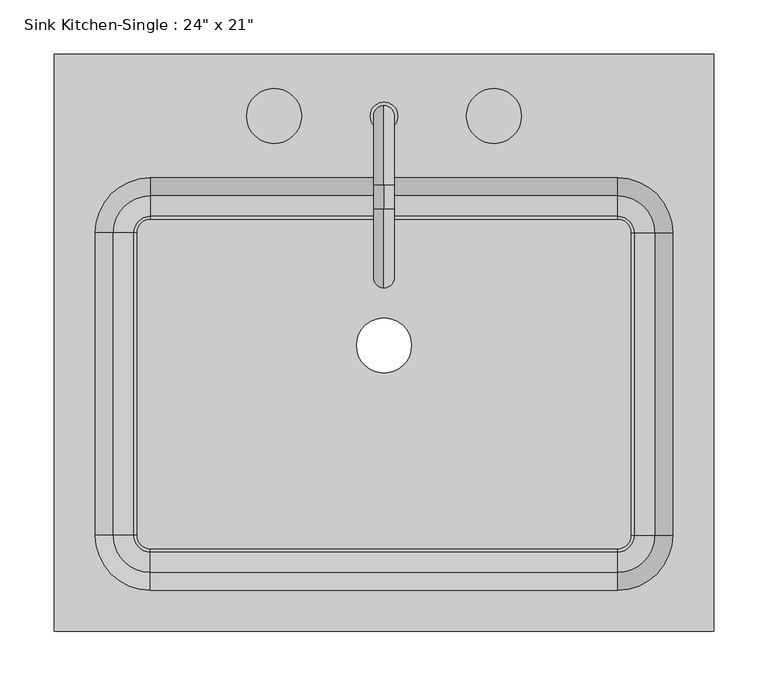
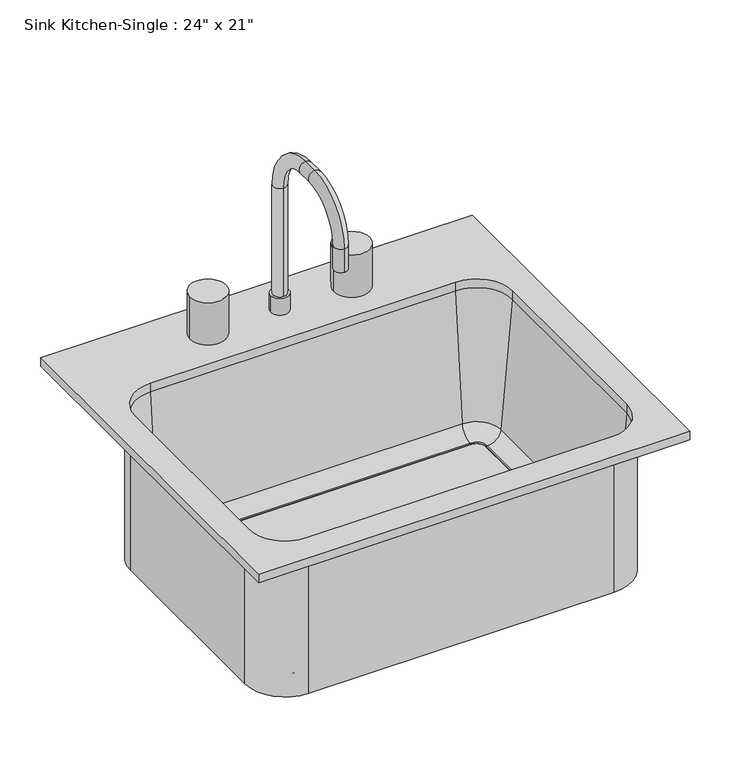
"""IFC4 building model written with IfcOpenShell, lengths in millimetres: flow terminal geometry."""

import ifcopenshell
import ifcopenshell.guid

model = None  # the IFC model being written
_history = None  # IfcOwnerHistory: only IFC2X3 demands one
_inside = {}  # id of a spatial element -> (the spatial element, [elements in it])
_under = {}  # id of a project, library or spatial element -> (it, [spatial elements below it])
_declared = {}  # id of a project -> (the project, [libraries it declares])
_typed = {}  # id of a type object -> (the type object, [elements of that type])
_made_of = {}  # id of a material, layer set ... -> (it, [elements and type objects made of it])


def new_model(schema):
    """Start an empty IFC model of exactly this schema.

    Asked for "IFC4X3", IfcOpenShell would pick the latest addendum, in which some entities
    have other attributes; the version numbers below select the first issue.
    IFC2X3 requires an IfcOwnerHistory on every rooted entity: one is made here for all.
    """
    global model, _history
    if schema == "IFC4X3":
        model = ifcopenshell.file(schema_version=(4, 3, 0, 0))
    else:
        model = ifcopenshell.file(schema=schema)
    _inside.clear()
    _under.clear()
    _declared.clear()
    _typed.clear()
    _made_of.clear()
    _history = None
    if model.schema == "IFC2X3":
        org = make("IfcOrganization", Name="unknown")
        user = make(
            "IfcPersonAndOrganization",
            ThePerson=make("IfcPerson", FamilyName="unknown"),
            TheOrganization=org,
        )
        app = make(
            "IfcApplication",
            ApplicationDeveloper=org,
            Version="unknown",
            ApplicationFullName="unknown",
            ApplicationIdentifier="unknown",
        )
        _history = make(
            "IfcOwnerHistory",
            OwningUser=user,
            OwningApplication=app,
            ChangeAction="ADDED",
            CreationDate=0,
        )
    return model


def make(cls, **values):
    """One entity of the class cls with the attributes given. An attribute that is None is left unset."""
    return model.create_entity(
        cls, **{name: value for name, value in values.items() if value is not None}
    )


def rooted(cls, **values):
    """An entity with a GlobalId (a new one), such as an element, a storey or a relation."""
    return make(cls, GlobalId=ifcopenshell.guid.new(), OwnerHistory=_history, **values)


def si_unit(unit_type, name, prefix=None):
    """IfcSIUnit, for example si_unit("LENGTHUNIT", "METRE", prefix="MILLI")."""
    return make("IfcSIUnit", UnitType=unit_type, Prefix=prefix, Name=name)


def assignment(units):
    """IfcUnitAssignment: the units of a project."""
    return None if units is None else make("IfcUnitAssignment", Units=units)


def point(xyz):
    """IfcCartesianPoint."""
    return None if xyz is None else make("IfcCartesianPoint", Coordinates=xyz)


def direction(xyz):
    """IfcDirection."""
    return None if xyz is None else make("IfcDirection", DirectionRatios=xyz)


def frame(location, z_axis=None, x_axis=None):
    """IfcAxis2Placement3D, a coordinate frame: its origin and axes. An axis left out is left unset."""
    return make(
        "IfcAxis2Placement3D",
        Location=point(location),
        Axis=direction(z_axis),
        RefDirection=direction(x_axis),
    )


def frame_2d(location, x_axis=None):
    """IfcAxis2Placement2D, a coordinate frame in the plane: its origin and x axis."""
    return make(
        "IfcAxis2Placement2D", Location=point(location), RefDirection=direction(x_axis)
    )


def origin():
    """The frame at (0, 0, 0) with its axes left unset."""
    return frame((0.0, 0.0, 0.0))


def place(relative_to, where):
    """IfcLocalPlacement: puts the frame where relative to a parent placement (None: the world)."""
    return make(
        "IfcLocalPlacement", PlacementRelTo=relative_to, RelativePlacement=where
    )


def context(
    kind, dimensions, precision=None, world=None, true_north=None, identifier=None
):
    """IfcGeometricRepresentationContext, for example the 3D "Model" context."""
    return make(
        "IfcGeometricRepresentationContext",
        ContextIdentifier=identifier,
        ContextType=kind,
        CoordinateSpaceDimension=dimensions,
        Precision=precision,
        WorldCoordinateSystem=world,
        TrueNorth=true_north,
    )


def project(units=None, contexts=None):
    """IfcProject with its units and contexts."""
    return rooted(
        "IfcProject",
        Name="project",
        RepresentationContexts=contexts,
        UnitsInContext=assignment(units),
    )


def spatial(cls, under=None, at=None, **own):
    """A site, building, storey or space (cls), placed at a placement, below another one or the project."""
    s = rooted(cls, ObjectPlacement=at, **own)
    if under is not None:
        _under.setdefault(under.id(), (under, []))[1].append(s)
    return s


def polyline(points):
    """IfcPolyline through the points."""
    return make("IfcPolyline", Points=[point(p) for p in points])


def circle_curve(where, radius):
    """IfcCircle in the frame where."""
    return make("IfcCircle", Position=where, Radius=radius)


def ellipse_curve(where, semi_axis1, semi_axis2):
    """IfcEllipse in the frame where."""
    return make(
        "IfcEllipse", Position=where, SemiAxis1=semi_axis1, SemiAxis2=semi_axis2
    )


def trimmed(basis, trim1, trim2, sense, master):
    """IfcTrimmedCurve: the piece of a basis curve between two trims."""
    return make(
        "IfcTrimmedCurve",
        BasisCurve=basis,
        Trim1=trim1,
        Trim2=trim2,
        SenseAgreement=sense,
        MasterRepresentation=master,
    )


def segment(curve, same_sense, transition):
    """IfcCompositeCurveSegment."""
    return make(
        "IfcCompositeCurveSegment",
        Transition=transition,
        SameSense=same_sense,
        ParentCurve=curve,
    )


def composite_curve(segments, self_intersect=None):
    """IfcCompositeCurve: segments joined end to end."""
    return make("IfcCompositeCurve", Segments=segments, SelfIntersect=self_intersect)


def outline(outer, holes=None, kind="AREA"):
    """IfcArbitraryClosedProfileDef: a profile drawn as a closed curve; with holes, ...WithVoids."""
    if holes is None:
        return make("IfcArbitraryClosedProfileDef", ProfileType=kind, OuterCurve=outer)
    return make(
        "IfcArbitraryProfileDefWithVoids",
        ProfileType=kind,
        OuterCurve=outer,
        InnerCurves=holes,
    )


def extrude(swept, where, along, depth):
    """IfcExtrudedAreaSolid: the profile swept, set in the frame where, extruded along a direction by depth."""
    return make(
        "IfcExtrudedAreaSolid",
        SweptArea=swept,
        Position=where,
        ExtrudedDirection=direction(along),
        Depth=depth,
    )


def shape(context_of_items, identifier, shape_type, items):
    """IfcShapeRepresentation: the items that make up one representation, for example the "Body"."""
    return make(
        "IfcShapeRepresentation",
        ContextOfItems=context_of_items,
        RepresentationIdentifier=identifier,
        RepresentationType=shape_type,
        Items=items,
    )


def source(mapping_origin, context_of_items, identifier, shape_type, items):
    """IfcRepresentationMap: a shape defined once, which mapped items show again and again."""
    return make(
        "IfcRepresentationMap",
        MappingOrigin=mapping_origin,
        MappedRepresentation=shape(context_of_items, identifier, shape_type, items),
    )


def transform(
    local_origin,
    x_axis=None,
    y_axis=None,
    z_axis=None,
    scale=None,
    scale2=None,
    scale3=None,
    uniform=True,
):
    """IfcCartesianTransformationOperator3D, or its non-uniform kind. x_axis, y_axis, z_axis: its Axis1, 2, 3."""
    if uniform:
        return make(
            "IfcCartesianTransformationOperator3D",
            Axis1=direction(x_axis),
            Axis2=direction(y_axis),
            LocalOrigin=point(local_origin),
            Scale=scale,
            Axis3=direction(z_axis),
        )
    return make(
        "IfcCartesianTransformationOperator3DnonUniform",
        Axis1=direction(x_axis),
        Axis2=direction(y_axis),
        LocalOrigin=point(local_origin),
        Scale=scale,
        Axis3=direction(z_axis),
        Scale2=scale2,
        Scale3=scale3,
    )


def mapped(mapping_source, mapping_target):
    """IfcMappedItem: shows the shape of a source again, moved by a transform."""
    return make(
        "IfcMappedItem", MappingSource=mapping_source, MappingTarget=mapping_target
    )


def made_of(thing, what):
    """Note that an element or type object is made of a material, layer set ...; save() writes the relation."""
    if what is not None:
        _made_of.setdefault(what.id(), (what, []))[1].append(thing)
    return thing


def element(
    cls,
    number,
    at=None,
    inside=None,
    cuts=None,
    type_object=None,
    material=None,
    context=None,
    identifier="Body",
    shape_type=None,
    held_by="IfcProductDefinitionShape",
    body=None,
    shapes=None,
    **own,
):
    """One element of the class cls, such as IfcWall. Its Tag is "e" and its number.

    at: its placement. inside: the storey or other place that contains it. cuts: it is an
    opening in that element (IfcRelVoidsElement). A single representation is given by context,
    identifier, shape_type and body (its items); several are given by shapes. held_by: the class
    of the entity that holds the representations. save() writes the other relations.
    """
    e = rooted(cls, Tag="e%d" % number, ObjectPlacement=at, **own)
    if body is not None:
        shapes = [shape(context, identifier, shape_type, body)]
    if shapes is not None:
        e.Representation = make(held_by, Representations=shapes)
    if inside is not None:
        _inside.setdefault(inside.id(), (inside, []))[1].append(e)
    if cuts is not None:
        rooted(
            "IfcRelVoidsElement", RelatingBuildingElement=cuts, RelatedOpeningElement=e
        )
    if type_object is not None:
        _typed.setdefault(type_object.id(), (type_object, []))[1].append(e)
    return made_of(e, material)


def aggregate(whole, parts):
    """IfcRelAggregates: a whole, such as a stair, and the parts it consists of."""
    return rooted("IfcRelAggregates", RelatingObject=whole, RelatedObjects=parts)


def save(model, path):
    """Write the relations noted so far, then the file.

    IfcRelAggregates (storeys below a building ...), IfcRelContainedInSpatialStructure (elements
    in a storey), IfcRelDefinesByType, IfcRelAssociatesMaterial and IfcRelDeclares: one each for
    every whole, place, type object, material and project.
    """
    for whole, parts in _under.values():
        aggregate(whole, parts)
    for where, things in _inside.values():
        rooted(
            "IfcRelContainedInSpatialStructure",
            RelatedElements=things,
            RelatingStructure=where,
        )
    for kind, things in _typed.values():
        rooted("IfcRelDefinesByType", RelatedObjects=things, RelatingType=kind)
    for what, things in _made_of.values():
        rooted("IfcRelAssociatesMaterial", RelatedObjects=things, RelatingMaterial=what)
    for by, libraries in _declared.values():
        rooted("IfcRelDeclares", RelatingContext=by, RelatedDefinitions=libraries)
    model.write(path)


def plane_surface(at):
    """IfcPlane: the flat surface through the origin of the frame at, square to its z axis."""
    return make("IfcPlane", Position=at)


def cylinder_surface(at, radius):
    """IfcCylindricalSurface: all points at the distance radius from the z axis of the frame at."""
    return make("IfcCylindricalSurface", Position=at, Radius=radius)


def revolved_surface(curve, axis_point, axis_direction):
    """IfcSurfaceOfRevolution: the curve turned about the line through axis_point along axis_direction."""
    return make(
        "IfcSurfaceOfRevolution",
        SweptCurve=make("IfcArbitraryOpenProfileDef", ProfileType="CURVE", Curve=curve),
        AxisPosition=make("IfcAxis1Placement", Location=point(axis_point), Axis=direction(axis_direction)),
    )


def advanced_brep(points, edges, surfaces, faces):
    """IfcAdvancedBrep: a solid bounded by faces that lie on surfaces and meet in shared edges.

    An edge is (start, end): straight between two places in points (the first is 0);
    or (start, end, curve); or (start, end, curve, False) where it runs against its curve.
    A face is (place in surfaces, loops), or (place, loops, False) where it looks against
    its surface's normal. A loop lists edges by number (the first is 1), with a minus sign
    where the edge is run from its end to its start. The first loop is the outer one.
    """
    corners = [point(p) for p in points]
    vertices = [make("IfcVertexPoint", VertexGeometry=c) for c in corners]
    made = []
    for start, end, *more in edges:
        made.append(
            make(
                "IfcEdgeCurve",
                EdgeStart=vertices[start],
                EdgeEnd=vertices[end],
                EdgeGeometry=more[0] if more else make("IfcPolyline", Points=[corners[start], corners[end]]),
                SameSense=more[1] if len(more) > 1 else True,
            )
        )
    hull = []
    for where, loops, *sense in faces:
        bounds = []
        for j, loop in enumerate(loops):
            ring = [make("IfcOrientedEdge", EdgeElement=made[abs(k) - 1], Orientation=k > 0) for k in loop]
            bounds.append(
                make(
                    "IfcFaceOuterBound" if j == 0 else "IfcFaceBound",
                    Bound=make("IfcEdgeLoop", EdgeList=ring),
                    Orientation=True,
                )
            )
        hull.append(make("IfcAdvancedFace", Bounds=bounds, FaceSurface=surfaces[where], SameSense=sense[0] if sense else True))
    return make("IfcAdvancedBrep", Outer=make("IfcClosedShell", CfsFaces=hull))


def flow_terminal_50ef5554(model_context):
    return source(origin(), model_context, "Body", "SolidModel", [
        advanced_brep(
        [(320.4892406, 269.0454011, 927.1), (-289.1107594, 269.0454011, 927.1), (-289.1107594, -264.3545989, 927.1), (320.4892406, -264.3545989, 927.1), (231.5892406, 154.7454011, 927.1), (282.3892406, 103.9454011, 927.1), (282.3892406, -175.4545989, 927.1), (231.5892406, -226.2545989, 927.1), (-200.2107594, -226.2545989, 927.1), (-251.0107594, -175.4545989, 927.1), (-251.0107594, 103.9454011, 927.1), (-200.2107594, 154.7454011, 927.1), (320.4892406, 269.0454011, 914.4), (320.4892406, -264.3545989, 914.4), (-289.1107594, -264.3545989, 914.4), (-289.1107594, 269.0454011, 914.4), (288.7392406, 103.9454011, 914.4), (231.5892406, 161.0954011, 914.4), (-200.2107594, 161.0954011, 914.4), (-257.3607594, 103.9454011, 914.4), (-257.3607594, -175.4545989, 914.4), (-200.2107594, -232.6045989, 914.4), (231.5892406, -232.6045989, 914.4), (288.7392406, -175.4545989, 914.4), (231.5892406, 154.7454011, 914.4), (282.3892406, 103.9454011, 914.4), (282.3892406, -175.4545989, 914.4), (231.5892406, -226.2545989, 914.4), (-200.2107594, -226.2545989, 914.4), (-251.0107594, -175.4545989, 914.4), (-251.0107594, 103.9454011, 914.4), (-200.2107594, 154.7454011, 914.4), (288.7392406, 103.9454011, 698.5), (231.5892406, 161.0954011, 698.5), (244.2892406, 103.9454011, 698.5), (231.5892406, 116.6454011, 698.5), (244.2892406, 103.9454011, 708.025), (231.5892406, 116.6454011, 708.025), (246.8776588, 103.9454011, 708.025), (231.5892406, 119.2338193, 708.025), (265.8551678, 103.9454011, 725.4146831), (231.5892406, 138.2113283, 725.4146831), (288.7392406, -175.4545989, 698.5), (244.2892406, -175.4545989, 698.5), (244.2892406, -175.4545989, 708.025), (246.8776588, -175.4545989, 708.025), (265.8551678, -175.4545989, 725.4146831), (231.5892406, -232.6045989, 698.5), (231.5892406, -188.1545989, 698.5), (231.5892406, -188.1545989, 708.025), (231.5892406, -190.7430171, 708.025), (231.5892406, -209.7205261, 725.4146831), (-200.2107594, -232.6045989, 698.5), (-200.2107594, -188.1545989, 698.5), (-200.2107594, -188.1545989, 708.025), (-200.2107594, -190.7430171, 708.025), (-200.2107594, -209.7205261, 725.4146831), (-257.3607594, -175.4545989, 698.5), (-212.9107594, -175.4545989, 698.5), (-212.9107594, -175.4545989, 708.025), (-215.4991776, -175.4545989, 708.025), (-234.4766866, -175.4545989, 725.4146831), (-257.3607594, 103.9454011, 698.5), (-212.9107594, 103.9454011, 698.5), (-212.9107594, 103.9454011, 708.025), (-215.4991776, 103.9454011, 708.025), (-234.4766866, 103.9454011, 725.4146831), (-200.2107594, 161.0954011, 698.5), (-200.2107594, 116.6454011, 698.5), (-200.2107594, 116.6454011, 708.025), (-200.2107594, 119.2338193, 708.025), (-200.2107594, 138.2113283, 725.4146831)],
        [
            (0, 1),
            (1, 2),
            (2, 3),
            (3, 0),
            (4, 5, circle_curve(frame((231.5892406, 103.9454011, 927.1), z_axis=(0.0, 0.0, -1.0), x_axis=(1.0, 0.0, 0.0)), 50.8)),
            (5, 6),
            (6, 7, circle_curve(frame((231.5892406, -175.4545989, 927.1), z_axis=(0.0, 0.0, -1.0), x_axis=(1.0, 0.0, 0.0)), 50.8)),
            (7, 8),
            (8, 9, circle_curve(frame((-200.2107594, -175.4545989, 927.1), z_axis=(0.0, 0.0, -1.0), x_axis=(1.0, 0.0, 0.0)), 50.8)),
            (9, 10),
            (10, 11, circle_curve(frame((-200.2107594, 103.9454011, 927.1), z_axis=(0.0, 0.0, -1.0), x_axis=(1.0, 0.0, 0.0)), 50.8)),
            (11, 4),
            (12, 13),
            (13, 14),
            (14, 15),
            (15, 12),
            (16, 17, circle_curve(frame((231.5892406, 103.9454011, 914.4), z_axis=(0.0, 0.0, 1.0), x_axis=(0.0, 1.0, 0.0)), 57.15)),
            (17, 18),
            (18, 19, circle_curve(frame((-200.2107594, 103.9454011, 914.4), z_axis=(0.0, 0.0, 1.0), x_axis=(-1.0, 0.0, 0.0)), 57.15)),
            (19, 20),
            (20, 21, circle_curve(frame((-200.2107594, -175.4545989, 914.4), z_axis=(0.0, 0.0, 1.0), x_axis=(0.0, -1.0, 0.0)), 57.15)),
            (21, 22),
            (22, 23, circle_curve(frame((231.5892406, -175.4545989, 914.4), z_axis=(0.0, 0.0, 1.0), x_axis=(1.0, 0.0, 0.0)), 57.15)),
            (23, 16),
            (0, 12),
            (15, 1),
            (14, 2),
            (13, 3),
            (4, 24),
            (24, 25, circle_curve(frame((231.5892406, 103.9454011, 914.4), z_axis=(0.0, 0.0, -1.0), x_axis=(1.0, 0.0, 0.0)), 50.8)),
            (25, 5),
            (25, 26),
            (26, 6),
            (26, 27, circle_curve(frame((231.5892406, -175.4545989, 914.4), z_axis=(0.0, 0.0, -1.0), x_axis=(1.0, 0.0, 0.0)), 50.8)),
            (27, 7),
            (27, 28),
            (28, 8),
            (28, 29, circle_curve(frame((-200.2107594, -175.4545989, 914.4), z_axis=(0.0, 0.0, -1.0), x_axis=(1.0, 0.0, 0.0)), 50.8)),
            (29, 9),
            (29, 30),
            (30, 10),
            (30, 31, circle_curve(frame((-200.2107594, 103.9454011, 914.4), z_axis=(0.0, 0.0, -1.0), x_axis=(1.0, 0.0, 0.0)), 50.8)),
            (31, 11),
            (31, 24),
            (32, 33, circle_curve(frame((231.5892406, 103.9454011, 698.5), z_axis=(0.0, 0.0, 1.0), x_axis=(0.0, 1.0, 0.0)), 57.15)),
            (33, 17),
            (16, 32),
            (32, 34),
            (34, 35, circle_curve(frame((231.5892406, 103.9454011, 698.5), z_axis=(0.0, 0.0, 1.0), x_axis=(0.0, 1.0, 0.0)), 12.7)),
            (35, 33),
            (34, 36),
            (36, 37, circle_curve(frame((231.5892406, 103.9454011, 708.025), z_axis=(0.0, 0.0, 1.0), x_axis=(0.0, 1.0, 0.0)), 12.7)),
            (37, 35),
            (36, 38),
            (38, 39, circle_curve(frame((231.5892406, 103.9454011, 708.025), z_axis=(0.0, 0.0, 1.0), x_axis=(0.0, 1.0, 0.0)), 15.2884182)),
            (39, 37),
            (38, 40, circle_curve(frame((246.8776588, 103.9454011, 727.075), z_axis=(0.0, -1.0, 0.0), x_axis=(1.0, 0.0, 0.0)), 19.05)),
            (40, 41, circle_curve(frame((231.5892406, 103.9454011, 725.4146831), z_axis=(0.0, 0.0, 1.0), x_axis=(0.0, 1.0, 0.0)), 34.2659272)),
            (41, 39, circle_curve(frame((231.5892406, 119.2338193, 727.075), z_axis=(-1.0, 0.0, 0.0), x_axis=(0.0, 1.0, 0.0)), 19.05)),
            (40, 25),
            (24, 41),
            (23, 42),
            (42, 32),
            (42, 43),
            (43, 34),
            (43, 44),
            (44, 36),
            (44, 45),
            (45, 38),
            (45, 46, circle_curve(frame((246.8776588, -175.4545989, 727.075), z_axis=(0.0, -1.0, 0.0), x_axis=(1.0, 0.0, 0.0)), 19.05)),
            (46, 40),
            (46, 26),
            (22, 47),
            (47, 42, circle_curve(frame((231.5892406, -175.4545989, 698.5), z_axis=(0.0, 0.0, 1.0), x_axis=(1.0, 0.0, 0.0)), 57.15)),
            (47, 48),
            (48, 43, circle_curve(frame((231.5892406, -175.4545989, 698.5), z_axis=(0.0, 0.0, 1.0), x_axis=(1.0, 0.0, 0.0)), 12.7)),
            (48, 49),
            (49, 44, circle_curve(frame((231.5892406, -175.4545989, 708.025), z_axis=(0.0, 0.0, 1.0), x_axis=(1.0, 0.0, 0.0)), 12.7)),
            (49, 50),
            (50, 45, circle_curve(frame((231.5892406, -175.4545989, 708.025), z_axis=(0.0, 0.0, 1.0), x_axis=(1.0, 0.0, 0.0)), 15.2884182)),
            (50, 51, circle_curve(frame((231.5892406, -190.7430171, 727.075), z_axis=(-1.0, 0.0, 0.0), x_axis=(0.0, -1.0, 0.0)), 19.05)),
            (51, 46, circle_curve(frame((231.5892406, -175.4545989, 725.4146831), z_axis=(0.0, 0.0, 1.0), x_axis=(1.0, 0.0, 0.0)), 34.2659272)),
            (51, 27),
            (21, 52),
            (52, 47),
            (52, 53),
            (53, 48),
            (53, 54),
            (54, 49),
            (54, 55),
            (55, 50),
            (55, 56, circle_curve(frame((-200.2107594, -190.7430171, 727.075), z_axis=(-1.0, 0.0, 0.0), x_axis=(0.0, -1.0, 0.0)), 19.05)),
            (56, 51),
            (56, 28),
            (20, 57),
            (57, 52, circle_curve(frame((-200.2107594, -175.4545989, 698.5), z_axis=(0.0, 0.0, 1.0), x_axis=(0.0, -1.0, 0.0)), 57.15)),
            (57, 58),
            (58, 53, circle_curve(frame((-200.2107594, -175.4545989, 698.5), z_axis=(0.0, 0.0, 1.0), x_axis=(0.0, -1.0, 0.0)), 12.7)),
            (58, 59),
            (59, 54, circle_curve(frame((-200.2107594, -175.4545989, 708.025), z_axis=(0.0, 0.0, 1.0), x_axis=(0.0, -1.0, 0.0)), 12.7)),
            (59, 60),
            (60, 55, circle_curve(frame((-200.2107594, -175.4545989, 708.025), z_axis=(0.0, 0.0, 1.0), x_axis=(0.0, -1.0, 0.0)), 15.2884182)),
            (60, 61, circle_curve(frame((-215.4991776, -175.4545989, 727.075), z_axis=(0.0, 1.0, 0.0), x_axis=(-1.0, 0.0, 0.0)), 19.05)),
            (61, 56, circle_curve(frame((-200.2107594, -175.4545989, 725.4146831), z_axis=(0.0, 0.0, 1.0), x_axis=(0.0, -1.0, 0.0)), 34.2659272)),
            (61, 29),
            (19, 62),
            (62, 57),
            (62, 63),
            (63, 58),
            (63, 64),
            (64, 59),
            (64, 65),
            (65, 60),
            (65, 66, circle_curve(frame((-215.4991776, 103.9454011, 727.075), z_axis=(0.0, 1.0, 0.0), x_axis=(-1.0, 0.0, 0.0)), 19.05)),
            (66, 61),
            (66, 30),
            (18, 67),
            (67, 62, circle_curve(frame((-200.2107594, 103.9454011, 698.5), z_axis=(0.0, 0.0, 1.0), x_axis=(-1.0, 0.0, 0.0)), 57.15)),
            (67, 68),
            (68, 63, circle_curve(frame((-200.2107594, 103.9454011, 698.5), z_axis=(0.0, 0.0, 1.0), x_axis=(-1.0, 0.0, 0.0)), 12.7)),
            (68, 69),
            (69, 64, circle_curve(frame((-200.2107594, 103.9454011, 708.025), z_axis=(0.0, 0.0, 1.0), x_axis=(-1.0, 0.0, 0.0)), 12.7)),
            (69, 70),
            (70, 65, circle_curve(frame((-200.2107594, 103.9454011, 708.025), z_axis=(0.0, 0.0, 1.0), x_axis=(-1.0, 0.0, 0.0)), 15.2884182)),
            (70, 71, circle_curve(frame((-200.2107594, 119.2338193, 727.075), z_axis=(1.0, 0.0, 0.0), x_axis=(0.0, 1.0, 0.0)), 19.05)),
            (71, 66, circle_curve(frame((-200.2107594, 103.9454011, 725.4146831), z_axis=(0.0, 0.0, 1.0), x_axis=(-1.0, 0.0, 0.0)), 34.2659272)),
            (71, 31),
            (33, 67),
            (35, 68),
            (37, 69),
            (39, 70),
            (41, 71),
        ],
        [
            plane_surface(frame((-289.1107594, 269.0454011, 927.1), z_axis=(0.0, 0.0, 1.0), x_axis=(-1.0, 0.0, 0.0))),
            plane_surface(frame((-289.1107594, 269.0454011, 914.4), z_axis=(0.0, 0.0, -1.0), x_axis=(1.0, 0.0, 0.0))),
            plane_surface(frame((320.4892406, 269.0454011, 927.1), z_axis=(0.0, 1.0, 0.0), x_axis=(0.0, 0.0, -1.0))),
            plane_surface(frame((-289.1107594, 269.0454011, 927.1), z_axis=(-1.0, 0.0, 0.0), x_axis=(0.0, 0.0, -1.0))),
            plane_surface(frame((-289.1107594, -264.3545989, 927.1), z_axis=(0.0, -1.0, 0.0), x_axis=(0.0, 0.0, -1.0))),
            plane_surface(frame((320.4892406, -264.3545989, 927.1), z_axis=(1.0, 0.0, 0.0), x_axis=(0.0, 0.0, -1.0))),
            revolved_surface(polyline([(282.3892406, 103.9454011, 914.4), (282.3892406, 103.9454011, 927.1)]), (231.5892406, 103.9454011, 0.0), (0.0, 0.0, -1.0)),
            plane_surface(frame((282.3892406, 103.9454011, 927.1), z_axis=(-1.0, 0.0, 0.0), x_axis=(0.0, 0.0, -1.0))),
            revolved_surface(polyline([(282.3892406, -175.4545989, 914.4), (282.3892406, -175.4545989, 927.1)]), (231.5892406, -175.4545989, 0.0), (0.0, 0.0, -1.0)),
            plane_surface(frame((231.5892406, -226.2545989, 927.1), z_axis=(0.0, 1.0, 0.0), x_axis=(0.0, 0.0, -1.0))),
            revolved_surface(polyline([(-149.41075940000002, -175.4545989, 914.4), (-149.41075940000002, -175.4545989, 927.1)]), (-200.2107594, -175.4545989, 0.0), (0.0, 0.0, -1.0)),
            plane_surface(frame((-251.0107594, -175.4545989, 927.1), z_axis=(1.0, 0.0, 0.0), x_axis=(0.0, 0.0, -1.0))),
            revolved_surface(polyline([(-149.41075940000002, 103.9454011, 914.4), (-149.41075940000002, 103.9454011, 927.1)]), (-200.2107594, 103.9454011, 0.0), (0.0, 0.0, -1.0)),
            plane_surface(frame((-200.2107594, 154.7454011, 927.1), z_axis=(0.0, -1.0, 0.0), x_axis=(0.0, 0.0, -1.0))),
            cylinder_surface(frame((231.5892406, 103.9454011, 0.0), z_axis=(0.0, 0.0, -1.0), x_axis=(0.0, 1.0, 0.0)), 57.15),
            plane_surface(frame((231.5892406, 103.9454011, 698.5), z_axis=(0.0, 0.0, -1.0), x_axis=(0.0, 1.0, 0.0))),
            revolved_surface(polyline([(231.5892406, 116.6454011, 698.5), (231.5892406, 116.6454011, 708.025)]), (231.5892406, 103.9454011, 0.0), (0.0, 0.0, -1.0)),
            plane_surface(frame((231.5892406, 103.9454011, 708.025), z_axis=(0.0, 0.0, 1.0), x_axis=(0.0, 1.0, 0.0))),
            revolved_surface(trimmed(ellipse_curve(frame((231.5892406, 119.2338193, 727.075), z_axis=(1.0, 0.0, 0.0), x_axis=(0.0, 1.0, 0.0)), 19.05, 19.05), [point((231.5892406, 119.2338193, 708.025))], [point((231.5892406, 138.2113283, 725.4146831))], True, "CARTESIAN"), (231.5892406, 103.9454011, 0.0), (0.0, 0.0, -1.0)),
            revolved_surface(polyline([(231.5892406, 138.2113283, 725.4146831), (231.5892406, 154.7454011, 914.4)]), (231.5892406, 103.9454011, 0.0), (0.0, 0.0, -1.0)),
            plane_surface(frame((288.7392406, 103.9454011, 914.4), z_axis=(1.0, 0.0, 0.0), x_axis=(0.0, -1.0, 0.0))),
            plane_surface(frame((288.7392406, 103.9454011, 698.5), z_axis=(0.0, 0.0, -1.0), x_axis=(0.0, -1.0, 0.0))),
            plane_surface(frame((244.2892406, 103.9454011, 698.5), z_axis=(-1.0, 0.0, 0.0), x_axis=(0.0, -1.0, 0.0))),
            plane_surface(frame((244.2892406, 103.9454011, 708.025), z_axis=(0.0, 0.0, 1.0), x_axis=(0.0, -1.0, 0.0))),
            revolved_surface(polyline([(265.9276588, -175.45459889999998, 727.075), (265.9276588, 103.9454011, 727.075)]), (246.8776588, 103.9454011, 727.075), (0.0, -1.0, 0.0)),
            plane_surface(frame((265.8551678, 103.9454011, 725.4146831), z_axis=(-0.9961946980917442, 0.0, 0.08715574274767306), x_axis=(0.0, -1.0, 0.0))),
            cylinder_surface(frame((231.5892406, -175.4545989, 0.0), z_axis=(0.0, 0.0, -1.0), x_axis=(1.0, 0.0, 0.0)), 57.15),
            plane_surface(frame((231.5892406, -175.4545989, 698.5), z_axis=(0.0, 0.0, -1.0), x_axis=(1.0, 0.0, 0.0))),
            revolved_surface(polyline([(244.2892406, -175.4545989, 698.5), (244.2892406, -175.4545989, 708.025)]), (231.5892406, -175.4545989, 0.0), (0.0, 0.0, -1.0)),
            plane_surface(frame((231.5892406, -175.4545989, 708.025), z_axis=(0.0, 0.0, 1.0), x_axis=(1.0, 0.0, 0.0))),
            revolved_surface(trimmed(ellipse_curve(frame((246.8776588, -175.4545989, 727.075), z_axis=(0.0, -1.0, 0.0), x_axis=(1.0, 0.0, 0.0)), 19.05, 19.05), [point((246.8776588, -175.4545989, 708.025))], [point((265.8551678, -175.4545989, 725.4146831))], True, "CARTESIAN"), (231.5892406, -175.4545989, 0.0), (0.0, 0.0, -1.0)),
            revolved_surface(polyline([(265.8551678, -175.4545989, 725.4146831), (282.3892406, -175.4545989, 914.4)]), (231.5892406, -175.4545989, 0.0), (0.0, 0.0, -1.0)),
            plane_surface(frame((231.5892406, -232.6045989, 914.4), z_axis=(0.0, -1.0, 0.0), x_axis=(-1.0, 0.0, 0.0))),
            plane_surface(frame((231.5892406, -232.6045989, 698.5), z_axis=(0.0, 0.0, -1.0), x_axis=(-1.0, 0.0, 0.0))),
            plane_surface(frame((231.5892406, -188.1545989, 698.5), z_axis=(0.0, 1.0, 0.0), x_axis=(-1.0, 0.0, 0.0))),
            plane_surface(frame((231.5892406, -188.1545989, 708.025), z_axis=(0.0, 0.0, 1.0), x_axis=(-1.0, 0.0, 0.0))),
            revolved_surface(polyline([(-200.2107594, -209.79301710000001, 727.075), (231.5892406, -209.79301710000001, 727.075)]), (231.5892406, -190.7430171, 727.075), (-1.0, 0.0, 0.0)),
            plane_surface(frame((231.5892406, -209.7205261, 725.4146831), z_axis=(0.0, 0.9961946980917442, 0.08715574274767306), x_axis=(-1.0, 0.0, 0.0))),
            cylinder_surface(frame((-200.2107594, -175.4545989, 0.0), z_axis=(0.0, 0.0, -1.0), x_axis=(0.0, -1.0, 0.0)), 57.15),
            plane_surface(frame((-200.2107594, -175.4545989, 698.5), z_axis=(0.0, 0.0, -1.0), x_axis=(0.0, -1.0, 0.0))),
            revolved_surface(polyline([(-200.2107594, -188.1545989, 698.5), (-200.2107594, -188.1545989, 708.025)]), (-200.2107594, -175.4545989, 0.0), (0.0, 0.0, -1.0)),
            plane_surface(frame((-200.2107594, -175.4545989, 708.025), z_axis=(0.0, 0.0, 1.0), x_axis=(0.0, -1.0, 0.0))),
            revolved_surface(trimmed(ellipse_curve(frame((-200.2107594, -190.7430171, 727.075), z_axis=(-1.0, 0.0, 0.0), x_axis=(0.0, -1.0, 0.0)), 19.05, 19.05), [point((-200.2107594, -190.7430171, 708.025))], [point((-200.2107594, -209.7205261, 725.4146831))], True, "CARTESIAN"), (-200.2107594, -175.4545989, 0.0), (0.0, 0.0, -1.0)),
            revolved_surface(polyline([(-200.2107594, -209.7205261, 725.4146831), (-200.2107594, -226.2545989, 914.4)]), (-200.2107594, -175.4545989, 0.0), (0.0, 0.0, -1.0)),
            plane_surface(frame((-257.3607594, -175.4545989, 914.4), z_axis=(-1.0, 0.0, 0.0), x_axis=(0.0, 1.0, 0.0))),
            plane_surface(frame((-257.3607594, -175.4545989, 698.5), z_axis=(0.0, 0.0, -1.0), x_axis=(0.0, 1.0, 0.0))),
            plane_surface(frame((-212.9107594, -175.4545989, 698.5), z_axis=(1.0, 0.0, 0.0), x_axis=(0.0, 1.0, 0.0))),
            plane_surface(frame((-212.9107594, -175.4545989, 708.025), z_axis=(0.0, 0.0, 1.0), x_axis=(0.0, 1.0, 0.0))),
            revolved_surface(polyline([(-234.5491776, 103.94540109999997, 727.075), (-234.5491776, -175.4545989, 727.075)]), (-215.4991776, -175.4545989, 727.075), (0.0, 1.0, 0.0)),
            plane_surface(frame((-234.4766866, -175.4545989, 725.4146831), z_axis=(0.9961946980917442, 0.0, 0.08715574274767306), x_axis=(0.0, 1.0, 0.0))),
            cylinder_surface(frame((-200.2107594, 103.9454011, 0.0), z_axis=(0.0, 0.0, -1.0), x_axis=(-1.0, 0.0, 0.0)), 57.15),
            plane_surface(frame((-200.2107594, 103.9454011, 698.5), z_axis=(0.0, 0.0, -1.0), x_axis=(-1.0, 0.0, 0.0))),
            revolved_surface(polyline([(-212.9107594, 103.9454011, 698.5), (-212.9107594, 103.9454011, 708.025)]), (-200.2107594, 103.9454011, 0.0), (0.0, 0.0, -1.0)),
            plane_surface(frame((-200.2107594, 103.9454011, 708.025), z_axis=(0.0, 0.0, 1.0), x_axis=(-1.0, 0.0, 0.0))),
            revolved_surface(trimmed(ellipse_curve(frame((-215.4991776, 103.9454011, 727.075), z_axis=(0.0, 1.0, 0.0), x_axis=(-1.0, 0.0, 0.0)), 19.05, 19.05), [point((-215.4991776, 103.9454011, 708.025))], [point((-234.4766866, 103.9454011, 725.4146831))], True, "CARTESIAN"), (-200.2107594, 103.9454011, 0.0), (0.0, 0.0, -1.0)),
            revolved_surface(polyline([(-234.4766866, 103.9454011, 725.4146831), (-251.0107594, 103.9454011, 914.4)]), (-200.2107594, 103.9454011, 0.0), (0.0, 0.0, -1.0)),
            plane_surface(frame((-200.2107594, 161.0954011, 914.4), z_axis=(0.0, 1.0, 0.0), x_axis=(1.0, 0.0, 0.0))),
            plane_surface(frame((-200.2107594, 161.0954011, 698.5), z_axis=(0.0, 0.0, -1.0), x_axis=(1.0, 0.0, 0.0))),
            plane_surface(frame((-200.2107594, 116.6454011, 698.5), z_axis=(0.0, -1.0, 0.0), x_axis=(1.0, 0.0, 0.0))),
            plane_surface(frame((-200.2107594, 116.6454011, 708.025), z_axis=(0.0, 0.0, 1.0), x_axis=(1.0, 0.0, 0.0))),
            revolved_surface(polyline([(231.5892406, 138.2838193, 727.075), (-200.2107594, 138.2838193, 727.075)]), (-200.2107594, 119.2338193, 727.075), (1.0, 0.0, 0.0)),
            plane_surface(frame((-200.2107594, 138.2113283, 725.4146831), z_axis=(0.0, -0.9961946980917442, 0.08715574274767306), x_axis=(1.0, 0.0, 0.0))),
        ],
        [
            (0, [[1, 2, 3, 4], [5, 6, 7, 8, 9, 10, 11, 12]]),
            (1, [[13, 14, 15, 16], [17, 18, 19, 20, 21, 22, 23, 24]]),
            (2, [[-1, 25, -16, 26]]),
            (3, [[-2, -26, -15, 27]]),
            (4, [[-3, -27, -14, 28]]),
            (5, [[-4, -28, -13, -25]]),
            (6, [[-5, 29, 30, 31]]),
            (7, [[-6, -31, 32, 33]]),
            (8, [[-7, -33, 34, 35]]),
            (9, [[-8, -35, 36, 37]]),
            (10, [[-9, -37, 38, 39]]),
            (11, [[-10, -39, 40, 41]]),
            (12, [[-11, -41, 42, 43]]),
            (13, [[-12, -43, 44, -29]]),
            (14, [[45, 46, -17, 47]]),
            (15, [[-45, 48, 49, 50]]),
            (16, [[-49, 51, 52, 53]]),
            (17, [[-52, 54, 55, 56]]),
            (18, [[-55, 57, 58, 59]]),
            (19, [[-58, 60, -30, 61]]),
            (20, [[-47, -24, 62, 63]]),
            (21, [[-48, -63, 64, 65]]),
            (22, [[-51, -65, 66, 67]]),
            (23, [[-54, -67, 68, 69]]),
            (24, [[-57, -69, 70, 71]]),
            (25, [[-60, -71, 72, -32]]),
            (26, [[-62, -23, 73, 74]]),
            (27, [[-64, -74, 75, 76]]),
            (28, [[-66, -76, 77, 78]]),
            (29, [[-68, -78, 79, 80]]),
            (30, [[-70, -80, 81, 82]]),
            (31, [[-72, -82, 83, -34]]),
            (32, [[-73, -22, 84, 85]]),
            (33, [[-75, -85, 86, 87]]),
            (34, [[-77, -87, 88, 89]]),
            (35, [[-79, -89, 90, 91]]),
            (36, [[-81, -91, 92, 93]]),
            (37, [[-83, -93, 94, -36]]),
            (38, [[-84, -21, 95, 96]]),
            (39, [[-86, -96, 97, 98]]),
            (40, [[-88, -98, 99, 100]]),
            (41, [[-90, -100, 101, 102]]),
            (42, [[-92, -102, 103, 104]]),
            (43, [[-94, -104, 105, -38]]),
            (44, [[-95, -20, 106, 107]]),
            (45, [[-97, -107, 108, 109]]),
            (46, [[-99, -109, 110, 111]]),
            (47, [[-101, -111, 112, 113]]),
            (48, [[-103, -113, 114, 115]]),
            (49, [[-105, -115, 116, -40]]),
            (50, [[-106, -19, 117, 118]]),
            (51, [[-108, -118, 119, 120]]),
            (52, [[-110, -120, 121, 122]]),
            (53, [[-112, -122, 123, 124]]),
            (54, [[-114, -124, 125, 126]]),
            (55, [[-116, -126, 127, -42]]),
            (56, [[-46, 128, -117, -18]]),
            (57, [[-50, 129, -119, -128]]),
            (58, [[-53, 130, -121, -129]]),
            (59, [[-56, 131, -123, -130]]),
            (60, [[-59, 132, -125, -131]]),
            (61, [[-61, -44, -127, -132]]),
        ],
    ),
        advanced_brep(
        [(2.9892406, 211.8954011, 927.1), (28.3892406, 211.8954011, 927.1), (15.6892406, 221.4204011, 1114.425), (15.6892406, 202.3704011, 1114.425), (15.6892406, 202.3704011, 952.5), (15.6892406, 221.4204011, 952.5), (15.6892406, 148.3954011, 1187.45), (15.6892406, 148.3954011, 1168.4), (15.6892406, 126.1704011, 1187.45), (15.6892406, 126.1704011, 1168.4), (15.6892406, 53.1454011, 1114.425), (15.6892406, 72.1954011, 1114.425), (15.6892406, 53.1454011, 1079.5), (15.6892406, 72.1954011, 1079.5), (2.9892406, 211.8954011, 952.5), (28.3892406, 211.8954011, 952.5)],
        [
            (0, 1, circle_curve(frame((15.6892406, 211.8954011, 927.1), z_axis=(0.0, 0.0, -1.0), x_axis=(1.0, 0.0, 0.0)), 12.7)),
            (1, 0, circle_curve(frame((15.6892406, 211.8954011, 927.1), z_axis=(0.0, 0.0, -1.0), x_axis=(1.0, 0.0, 0.0)), 12.7)),
            (2, 3, circle_curve(frame((15.6892406, 211.8954011, 1114.425), z_axis=(0.0, 0.0, -1.0), x_axis=(0.0, -1.0, 0.0)), 9.525)),
            (3, 4),
            (4, 5, circle_curve(frame((15.6892406, 211.8954011, 952.5), z_axis=(0.0, 0.0, 1.0), x_axis=(0.0, -1.0, 0.0)), 9.525)),
            (5, 2),
            (3, 2, circle_curve(frame((15.6892406, 211.8954011, 1114.425), z_axis=(0.0, 0.0, -1.0), x_axis=(0.0, -1.0, 0.0)), 9.525)),
            (5, 4, circle_curve(frame((15.6892406, 211.8954011, 952.5), z_axis=(0.0, 0.0, 1.0), x_axis=(0.0, -1.0, 0.0)), 9.525)),
            (2, 6, circle_curve(frame((15.6892406, 148.3954011, 1114.425), z_axis=(1.0, 0.0, 0.0), x_axis=(0.0, 1.0, 0.0)), 73.025)),
            (6, 7, circle_curve(frame((15.6892406, 148.3954011, 1177.925), z_axis=(0.0, 1.0, 0.0), x_axis=(0.0, 0.0, -1.0)), 9.525)),
            (7, 3, circle_curve(frame((15.6892406, 148.3954011, 1114.425), z_axis=(-1.0, 0.0, 0.0), x_axis=(0.0, 1.0, 0.0)), 53.975)),
            (7, 6, circle_curve(frame((15.6892406, 148.3954011, 1177.925), z_axis=(0.0, 1.0, 0.0), x_axis=(0.0, 0.0, -1.0)), 9.525)),
            (6, 8),
            (8, 9, circle_curve(frame((15.6892406, 126.1704011, 1177.925), z_axis=(0.0, 1.0, 0.0), x_axis=(0.0, 0.0, -1.0)), 9.525)),
            (9, 7),
            (9, 8, circle_curve(frame((15.6892406, 126.1704011, 1177.925), z_axis=(0.0, 1.0, 0.0), x_axis=(0.0, 0.0, -1.0)), 9.525)),
            (8, 10, circle_curve(frame((15.6892406, 126.1704011, 1114.425), z_axis=(1.0, 0.0, 0.0), x_axis=(0.0, 0.0, 1.0)), 73.025)),
            (10, 11, circle_curve(frame((15.6892406, 62.6704011, 1114.425), z_axis=(0.0, 0.0, 1.0), x_axis=(0.0, 1.0, 0.0)), 9.525)),
            (11, 9, circle_curve(frame((15.6892406, 126.1704011, 1114.425), z_axis=(-1.0, 0.0, 0.0), x_axis=(0.0, 0.0, 1.0)), 53.975)),
            (11, 10, circle_curve(frame((15.6892406, 62.6704011, 1114.425), z_axis=(0.0, 0.0, 1.0), x_axis=(0.0, 1.0, 0.0)), 9.525)),
            (12, 13, circle_curve(frame((15.6892406, 62.6704011, 1079.5), z_axis=(0.0, 0.0, -1.0), x_axis=(0.0, 1.0, 0.0)), 9.525)),
            (13, 12, circle_curve(frame((15.6892406, 62.6704011, 1079.5), z_axis=(0.0, 0.0, -1.0), x_axis=(0.0, 1.0, 0.0)), 9.525)),
            (10, 12),
            (13, 11),
            (14, 15, circle_curve(frame((15.6892406, 211.8954011, 952.5), z_axis=(0.0, 0.0, 1.0), x_axis=(1.0, 0.0, 0.0)), 12.7)),
            (15, 14, circle_curve(frame((15.6892406, 211.8954011, 952.5), z_axis=(0.0, 0.0, 1.0), x_axis=(1.0, 0.0, 0.0)), 12.7)),
            (14, 0),
            (1, 15),
        ],
        [
            plane_surface(frame((15.6892406, 202.3704011, 927.1), z_axis=(0.0, 0.0, -1.0), x_axis=(1.0, 0.0, 0.0))),
            cylinder_surface(frame((15.6892406, 211.8954011, 927.1), z_axis=(0.0, 0.0, -1.0), x_axis=(0.0, -1.0, 0.0)), 9.525),
            revolved_surface(trimmed(ellipse_curve(frame((15.6892406, 211.8954011, 1114.425), z_axis=(0.0, 0.0, -1.0), x_axis=(0.0, -1.0, 0.0)), 9.525, 9.525), [point((15.6892406, 221.4204011, 1114.425))], [point((15.6892406, 202.3704011, 1114.425))], True, "CARTESIAN"), (15.6892406, 148.3954011, 1114.425), (1.0, 0.0, 0.0)),
            revolved_surface(trimmed(ellipse_curve(frame((15.6892406, 211.8954011, 1114.425), z_axis=(0.0, 0.0, -1.0), x_axis=(0.0, -1.0, 0.0)), 9.525, 9.525), [point((15.6892406, 202.3704011, 1114.425))], [point((15.6892406, 221.4204011, 1114.425))], True, "CARTESIAN"), (15.6892406, 148.3954011, 1114.425), (1.0, 0.0, 0.0)),
            cylinder_surface(frame((15.6892406, 148.3954011, 1177.925), z_axis=(0.0, 1.0, 0.0), x_axis=(0.0, 0.0, -1.0)), 9.525),
            revolved_surface(trimmed(ellipse_curve(frame((15.6892406, 126.1704011, 1177.925), z_axis=(0.0, 1.0, 0.0), x_axis=(0.0, 0.0, -1.0)), 9.525, 9.525), [point((15.6892406, 126.1704011, 1187.45))], [point((15.6892406, 126.1704011, 1168.4))], True, "CARTESIAN"), (15.6892406, 126.1704011, 1114.425), (1.0, 0.0, 0.0)),
            revolved_surface(trimmed(ellipse_curve(frame((15.6892406, 126.1704011, 1177.925), z_axis=(0.0, 1.0, 0.0), x_axis=(0.0, 0.0, -1.0)), 9.525, 9.525), [point((15.6892406, 126.1704011, 1168.4))], [point((15.6892406, 126.1704011, 1187.45))], True, "CARTESIAN"), (15.6892406, 126.1704011, 1114.425), (1.0, 0.0, 0.0)),
            plane_surface(frame((15.6892406, 53.1454011, 1079.5), z_axis=(0.0, 0.0, -1.0), x_axis=(-1.0, 0.0, 0.0))),
            cylinder_surface(frame((15.6892406, 62.6704011, 1114.425), z_axis=(0.0, 0.0, 1.0), x_axis=(0.0, 1.0, 0.0)), 9.525),
            plane_surface(frame((28.3892406, 211.8954011, 952.5), z_axis=(0.0, 0.0, 1.0), x_axis=(0.0, 1.0, 0.0))),
            cylinder_surface(frame((15.6892406, 211.8954011, 927.1), z_axis=(0.0, 0.0, 1.0), x_axis=(1.0, 0.0, 0.0)), 12.7),
        ],
        [
            (0, [[1, 2]]),
            (1, [[3, 4, 5, 6]]),
            (1, [[7, -6, 8, -4]]),
            (2, [[-3, 9, 10, 11]]),
            (3, [[-7, -11, 12, -9]]),
            (4, [[-10, 13, 14, 15]]),
            (4, [[-12, -15, 16, -13]]),
            (5, [[-14, 17, 18, 19]]),
            (6, [[-16, -19, 20, -17]]),
            (7, [[21, 22]]),
            (8, [[-18, 23, -22, 24]]),
            (8, [[-20, -24, -21, -23]]),
            (9, [[25, 26], [-5, -8]]),
            (10, [[-25, 27, -2, 28]]),
            (10, [[-26, -28, -1, -27]]),
        ],
    ),
        extrude(outline(composite_curve([segment(trimmed(circle_curve(frame_2d((-85.9107594, 211.8954011)), 25.4), [point((-111.3107594, 211.8954011))], [point((-60.5107594, 211.8954011))], False, "CARTESIAN"), True, "CONTINUOUS"), segment(trimmed(circle_curve(frame_2d((-85.9107594, 211.8954011)), 25.4), [point((-60.5107594, 211.8954011))], [point((-111.3107594, 211.8954011))], False, "CARTESIAN"), True, "CONTINUOUS")], self_intersect=False)), frame((0.0, 0.0, 927.1), z_axis=(0.0, 0.0, 1.0), x_axis=(1.0, 0.0, 0.0)), (0.0, 0.0, 1.0), 63.5),
        extrude(outline(composite_curve([segment(trimmed(circle_curve(frame_2d((117.2892406, 211.8954011)), 25.4), [point((91.8892406, 211.8954011))], [point((142.6892406, 211.8954011))], False, "CARTESIAN"), True, "CONTINUOUS"), segment(trimmed(circle_curve(frame_2d((117.2892406, 211.8954011)), 25.4), [point((142.6892406, 211.8954011))], [point((91.8892406, 211.8954011))], False, "CARTESIAN"), True, "CONTINUOUS")], self_intersect=False)), frame((0.0, 0.0, 927.1), z_axis=(0.0, 0.0, 1.0), x_axis=(1.0, 0.0, 0.0)), (0.0, 0.0, 1.0), 63.5),
        extrude(outline(composite_curve([segment(trimmed(circle_curve(frame_2d((231.5892406, 103.9454011)), 12.7), [point((231.5892406, 116.6454011))], [point((244.2892406, 103.9454011))], False, "CARTESIAN"), True, "CONTINUOUS"), segment(polyline([(244.2892406, 103.9454011), (244.2892406, -175.4545989)]), True, "CONTINUOUS"), segment(trimmed(circle_curve(frame_2d((231.5892406, -175.4545989)), 12.7), [point((244.2892406, -175.4545989))], [point((231.5892406, -188.1545989))], False, "CARTESIAN"), True, "CONTINUOUS"), segment(polyline([(231.5892406, -188.1545989), (-200.2107594, -188.1545989)]), True, "CONTINUOUS"), segment(trimmed(circle_curve(frame_2d((-200.2107594, -175.4545989)), 12.7), [point((-200.2107594, -188.1545989))], [point((-212.9107594, -175.4545989))], False, "CARTESIAN"), True, "CONTINUOUS"), segment(polyline([(-212.9107594, -175.4545989), (-212.9107594, 103.9454011)]), True, "CONTINUOUS"), segment(trimmed(circle_curve(frame_2d((-200.2107594, 103.9454011)), 12.7), [point((-212.9107594, 103.9454011))], [point((-200.2107594, 116.6454011))], False, "CARTESIAN"), True, "CONTINUOUS"), segment(polyline([(-200.2107594, 116.6454011), (231.5892406, 116.6454011)]), True, "CONTINUOUS")], self_intersect=False), holes=[composite_curve([segment(trimmed(circle_curve(frame_2d((15.6892406, 0.0)), 25.4), [point((-9.7107594, 0.0))], [point((41.0892406, 0.0))], True, "CARTESIAN"), True, "CONTINUOUS"), segment(trimmed(circle_curve(frame_2d((15.6892406, 0.0)), 25.4), [point((41.0892406, 0.0))], [point((-9.7107594, 0.0))], True, "CARTESIAN"), True, "CONTINUOUS")], self_intersect=False)]), frame((0.0, 0.0, 698.5), z_axis=(0.0, 0.0, 1.0), x_axis=(1.0, 0.0, 0.0)), (0.0, 0.0, 1.0), 9.525),
    ])


if __name__ == "__main__":
    model = new_model("IFC4")
    model_context = context("Model", 3, world=origin())
    ifc_project = project(units=[si_unit("LENGTHUNIT", "METRE", prefix="MILLI")], contexts=[model_context])
    site = spatial("IfcSite", under=ifc_project)
    building = spatial("IfcBuilding", under=site)
    placement = place(None, origin())
    flow_terminal_shape = flow_terminal_50ef5554(model_context)
    element("IfcFlowTerminal", 1, ObjectType="Sink Kitchen-Single : 24\" x 21\"", at=placement, inside=building, context=model_context, shape_type="MappedRepresentation", body=[
        mapped(flow_terminal_shape, transform((0.0, 0.0, 0.0), x_axis=(1.0, 0.0, 0.0), y_axis=(0.0, 1.0, 0.0), z_axis=(0.0, 0.0, 1.0))),
    ])
    save(model, "model.ifc")
